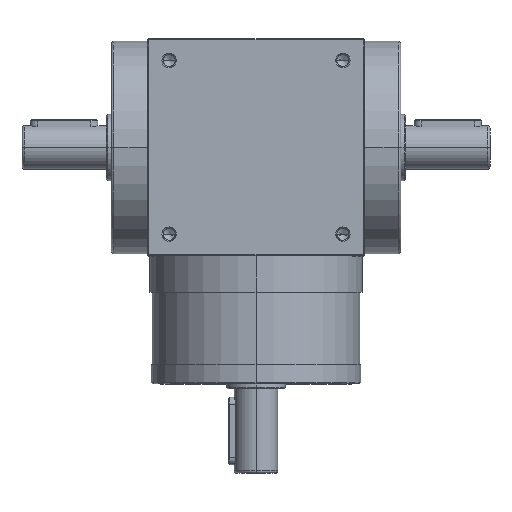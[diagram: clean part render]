
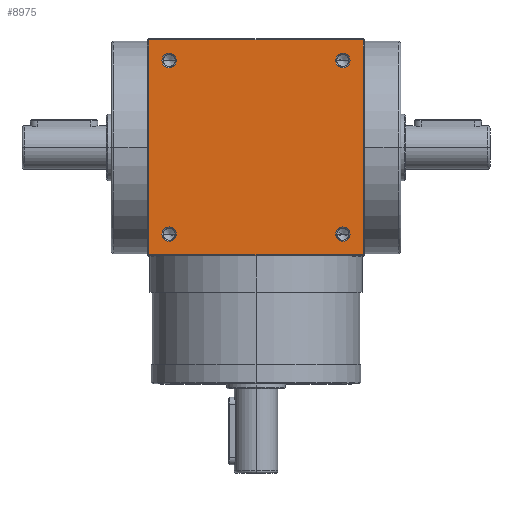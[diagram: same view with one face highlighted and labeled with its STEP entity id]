
A CAD part, top view. The second image highlights one B-rep face of the part: STEP entity #8975.
In plain terms, the highlighted planar face has unit normal (0, 0, 1).
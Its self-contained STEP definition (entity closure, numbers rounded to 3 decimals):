
#256 = DIRECTION ( 'NONE',  ( -1., 0., 0. ) ) ;
#311 = ORIENTED_EDGE ( 'NONE', *, *, #2287, .T. ) ;
#400 = ORIENTED_EDGE ( 'NONE', *, *, #6123, .T. ) ;
#410 = CARTESIAN_POINT ( 'NONE',  ( 36., -36., 45. ) ) ;
#483 = CIRCLE ( 'NONE', #8506, 3. ) ;
#532 = EDGE_CURVE ( 'NONE', #676, #951, #987, .T. ) ;
#569 = ORIENTED_EDGE ( 'NONE', *, *, #4664, .T. ) ;
#658 = VERTEX_POINT ( 'NONE', #7786 ) ;
#676 = VERTEX_POINT ( 'NONE', #5498 ) ;
#730 = CARTESIAN_POINT ( 'NONE',  ( 33., 36., 45. ) ) ;
#734 = CARTESIAN_POINT ( 'NONE',  ( 36., 36., 45. ) ) ;
#821 = CARTESIAN_POINT ( 'NONE',  ( 0., -44.5, 45. ) ) ;
#951 = VERTEX_POINT ( 'NONE', #6636 ) ;
#987 = CIRCLE ( 'NONE', #8364, 3. ) ;
#1243 = EDGE_CURVE ( 'NONE', #9921, #5539, #7500, .T. ) ;
#1298 = EDGE_CURVE ( 'NONE', #951, #676, #483, .T. ) ;
#1320 = CARTESIAN_POINT ( 'NONE',  ( 44.5, 0., 45. ) ) ;
#1334 = DIRECTION ( 'NONE',  ( 0., 0., -1. ) ) ;
#1379 = CARTESIAN_POINT ( 'NONE',  ( -36., 36., 45. ) ) ;
#1648 = EDGE_LOOP ( 'NONE', ( #5862, #10147 ) ) ;
#1825 = FACE_BOUND ( 'NONE', #1648, .T. ) ;
#1985 = ORIENTED_EDGE ( 'NONE', *, *, #5133, .T. ) ;
#2022 = AXIS2_PLACEMENT_3D ( 'NONE', #3199, #6373, #7184 ) ;
#2190 = DIRECTION ( 'NONE',  ( 0., 1., 0. ) ) ;
#2195 = AXIS2_PLACEMENT_3D ( 'NONE', #7282, #8925, #9781 ) ;
#2287 = EDGE_CURVE ( 'NONE', #3084, #8830, #5793, .T. ) ;
#2302 = CIRCLE ( 'NONE', #4902, 3. ) ;
#2336 = DIRECTION ( 'NONE',  ( -1., 0., 0. ) ) ;
#2544 = CIRCLE ( 'NONE', #2195, 3. ) ;
#2603 = DIRECTION ( 'NONE',  ( -1., 0., 0. ) ) ;
#2635 = CARTESIAN_POINT ( 'NONE',  ( -36., -36., 45. ) ) ;
#2797 = CARTESIAN_POINT ( 'NONE',  ( -33., -36., 45. ) ) ;
#2838 = DIRECTION ( 'NONE',  ( -1., 0., 0. ) ) ;
#2975 = AXIS2_PLACEMENT_3D ( 'NONE', #1379, #9544, #4616 ) ;
#3084 = VERTEX_POINT ( 'NONE', #8199 ) ;
#3199 = CARTESIAN_POINT ( 'NONE',  ( 36., 36., 45. ) ) ;
#3253 = CARTESIAN_POINT ( 'NONE',  ( -39., 36., 45. ) ) ;
#3379 = CARTESIAN_POINT ( 'NONE',  ( 44.5, -44.5, 45. ) ) ;
#3445 = EDGE_LOOP ( 'NONE', ( #9594, #8189 ) ) ;
#3497 = CARTESIAN_POINT ( 'NONE',  ( -39., -36., 45. ) ) ;
#3499 = EDGE_LOOP ( 'NONE', ( #7319, #3818, #569, #8070 ) ) ;
#3545 = LINE ( 'NONE', #4715, #4927 ) ;
#3567 = VERTEX_POINT ( 'NONE', #10328 ) ;
#3599 = LINE ( 'NONE', #1320, #5487 ) ;
#3670 = CARTESIAN_POINT ( 'NONE',  ( 0., 44.5, 45. ) ) ;
#3818 = ORIENTED_EDGE ( 'NONE', *, *, #9195, .T. ) ;
#3969 = AXIS2_PLACEMENT_3D ( 'NONE', #10170, #6073, #7025 ) ;
#4616 = DIRECTION ( 'NONE',  ( -1., 0., 0. ) ) ;
#4664 = EDGE_CURVE ( 'NONE', #7456, #8028, #3599, .T. ) ;
#4715 = CARTESIAN_POINT ( 'NONE',  ( -44.5, 0., 45. ) ) ;
#4822 = DIRECTION ( 'NONE',  ( 1., 0., 0. ) ) ;
#4902 = AXIS2_PLACEMENT_3D ( 'NONE', #734, #8794, #2336 ) ;
#4927 = VECTOR ( 'NONE', #6207, 1000. ) ;
#5133 = EDGE_CURVE ( 'NONE', #8830, #3084, #2302, .T. ) ;
#5186 = ORIENTED_EDGE ( 'NONE', *, *, #10369, .T. ) ;
#5232 = VECTOR ( 'NONE', #4822, 1000. ) ;
#5454 = AXIS2_PLACEMENT_3D ( 'NONE', #2635, #8562, #2603 ) ;
#5487 = VECTOR ( 'NONE', #2190, 1000. ) ;
#5498 = CARTESIAN_POINT ( 'NONE',  ( 39., -36., 45. ) ) ;
#5532 = CIRCLE ( 'NONE', #3969, 3. ) ;
#5539 = VERTEX_POINT ( 'NONE', #2797 ) ;
#5750 = CARTESIAN_POINT ( 'NONE',  ( 44.5, 44.5, 45. ) ) ;
#5793 = CIRCLE ( 'NONE', #2022, 3. ) ;
#5846 = FACE_BOUND ( 'NONE', #8631, .T. ) ;
#5862 = ORIENTED_EDGE ( 'NONE', *, *, #6656, .T. ) ;
#6073 = DIRECTION ( 'NONE',  ( 0., 0., -1. ) ) ;
#6123 = EDGE_CURVE ( 'NONE', #3567, #8831, #7312, .T. ) ;
#6170 = EDGE_CURVE ( 'NONE', #658, #7055, #3545, .T. ) ;
#6207 = DIRECTION ( 'NONE',  ( 0., -1., 0. ) ) ;
#6373 = DIRECTION ( 'NONE',  ( 0., 0., -1. ) ) ;
#6636 = CARTESIAN_POINT ( 'NONE',  ( 33., -36., 45. ) ) ;
#6656 = EDGE_CURVE ( 'NONE', #5539, #9921, #5532, .T. ) ;
#6754 = DIRECTION ( 'NONE',  ( 0., 0., -1. ) ) ;
#6881 = DIRECTION ( 'NONE',  ( -1., 0., 0. ) ) ;
#6955 = VECTOR ( 'NONE', #9435, 1000. ) ;
#7025 = DIRECTION ( 'NONE',  ( -1., 0., 0. ) ) ;
#7055 = VERTEX_POINT ( 'NONE', #8331 ) ;
#7184 = DIRECTION ( 'NONE',  ( -1., 0., 0. ) ) ;
#7200 = LINE ( 'NONE', #3670, #6955 ) ;
#7282 = CARTESIAN_POINT ( 'NONE',  ( -36., 36., 45. ) ) ;
#7312 = CIRCLE ( 'NONE', #2975, 3. ) ;
#7319 = ORIENTED_EDGE ( 'NONE', *, *, #6170, .T. ) ;
#7456 = VERTEX_POINT ( 'NONE', #3379 ) ;
#7500 = CIRCLE ( 'NONE', #5454, 3. ) ;
#7576 = EDGE_LOOP ( 'NONE', ( #311, #1985 ) ) ;
#7786 = CARTESIAN_POINT ( 'NONE',  ( -44.5, 44.5, 45. ) ) ;
#7995 = FACE_BOUND ( 'NONE', #3445, .T. ) ;
#8028 = VERTEX_POINT ( 'NONE', #5750 ) ;
#8070 = ORIENTED_EDGE ( 'NONE', *, *, #10002, .T. ) ;
#8189 = ORIENTED_EDGE ( 'NONE', *, *, #1298, .T. ) ;
#8199 = CARTESIAN_POINT ( 'NONE',  ( 39., 36., 45. ) ) ;
#8245 = PLANE ( 'NONE',  #9679 ) ;
#8331 = CARTESIAN_POINT ( 'NONE',  ( -44.5, -44.5, 45. ) ) ;
#8364 = AXIS2_PLACEMENT_3D ( 'NONE', #10124, #1334, #6881 ) ;
#8506 = AXIS2_PLACEMENT_3D ( 'NONE', #410, #9315, #2838 ) ;
#8562 = DIRECTION ( 'NONE',  ( 0., 0., -1. ) ) ;
#8631 = EDGE_LOOP ( 'NONE', ( #400, #5186 ) ) ;
#8794 = DIRECTION ( 'NONE',  ( 0., 0., -1. ) ) ;
#8830 = VERTEX_POINT ( 'NONE', #730 ) ;
#8831 = VERTEX_POINT ( 'NONE', #3253 ) ;
#8925 = DIRECTION ( 'NONE',  ( 0., 0., -1. ) ) ;
#8975 = ADVANCED_FACE ( 'NONE', ( #9292, #7995, #1825, #9791, #5846 ), #8245, .F. ) ;
#9195 = EDGE_CURVE ( 'NONE', #7055, #7456, #10033, .T. ) ;
#9292 = FACE_OUTER_BOUND ( 'NONE', #3499, .T. ) ;
#9315 = DIRECTION ( 'NONE',  ( 0., 0., -1. ) ) ;
#9435 = DIRECTION ( 'NONE',  ( -1., 0., 0. ) ) ;
#9544 = DIRECTION ( 'NONE',  ( 0., 0., -1. ) ) ;
#9594 = ORIENTED_EDGE ( 'NONE', *, *, #532, .T. ) ;
#9679 = AXIS2_PLACEMENT_3D ( 'NONE', #9913, #6754, #256 ) ;
#9781 = DIRECTION ( 'NONE',  ( -1., 0., 0. ) ) ;
#9791 = FACE_BOUND ( 'NONE', #7576, .T. ) ;
#9913 = CARTESIAN_POINT ( 'NONE',  ( 0., 0., 45. ) ) ;
#9921 = VERTEX_POINT ( 'NONE', #3497 ) ;
#10002 = EDGE_CURVE ( 'NONE', #8028, #658, #7200, .T. ) ;
#10033 = LINE ( 'NONE', #821, #5232 ) ;
#10124 = CARTESIAN_POINT ( 'NONE',  ( 36., -36., 45. ) ) ;
#10147 = ORIENTED_EDGE ( 'NONE', *, *, #1243, .T. ) ;
#10170 = CARTESIAN_POINT ( 'NONE',  ( -36., -36., 45. ) ) ;
#10328 = CARTESIAN_POINT ( 'NONE',  ( -33., 36., 45. ) ) ;
#10369 = EDGE_CURVE ( 'NONE', #8831, #3567, #2544, .T. ) ;
